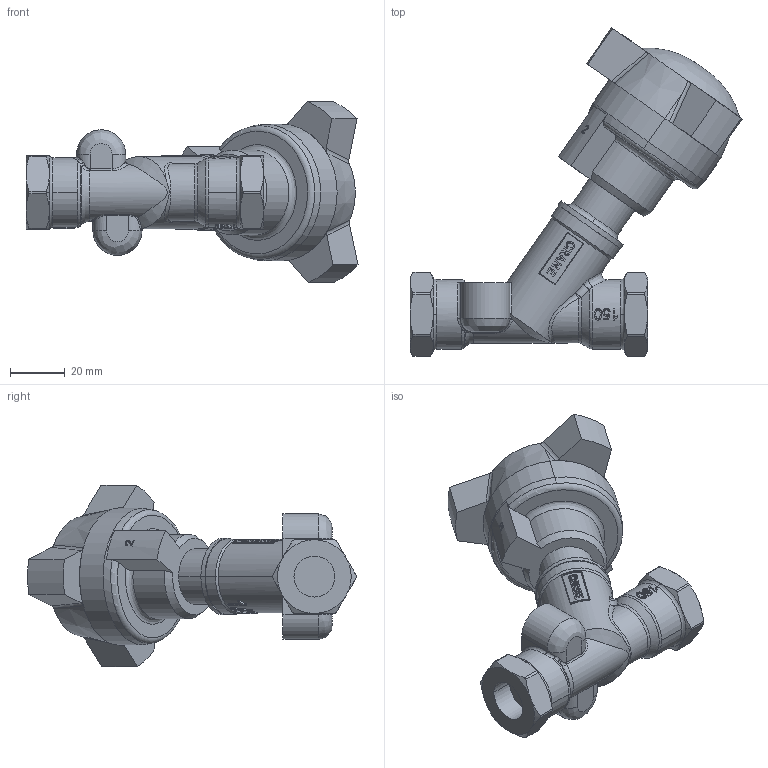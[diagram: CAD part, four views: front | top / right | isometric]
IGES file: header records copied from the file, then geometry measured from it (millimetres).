
Global section: file name: No Iges File Name specified; native system: AutoDesk Inventor R12.0; preprocessor: AutoDesk Inventor Iges Exporter R12.0; date: 20110304.101524; units: millimetre
Bounding box: 121.59 x 120.36 x 66.44 mm (x, y, z)
Volume: 154879.5 mm3; surface area: 25582.3 mm2
Topology: 1 solids, 1 shells, 723 faces, 1975 edges, 1302 vertices
Faces by surface type: bspline 332, plane 291, cylinder 65, cone 26, revolution 6, torus 3
